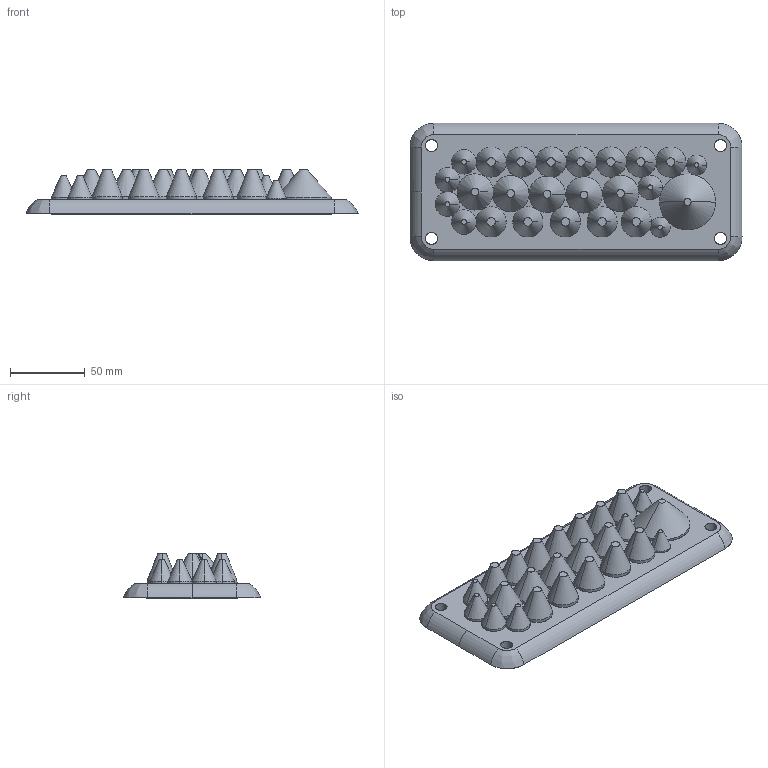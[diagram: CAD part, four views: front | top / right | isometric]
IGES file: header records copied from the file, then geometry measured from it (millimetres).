
Start section: SolidWorks IGES file using analytic representation for surfaces
Global section: file name: C:\Solidworks\omat tuotteet\Space charge models\Multigate\ip54 LMC\IGES\104335.IGS; native system: SolidWorks 2012; preprocessor: SolidWorks 2012; author: joni.lehtonen; date: 121212.095220; units: millimetre
Bounding box: 221.75 x 91.74 x 29.75 mm (x, y, z)
Surface area: 57940.5 mm2 (no closed solid volume)
Topology: 0 solids, 0 shells, 319 faces, 6742 edges, 6742 vertices
Faces by surface type: revolution 251, bspline 68
